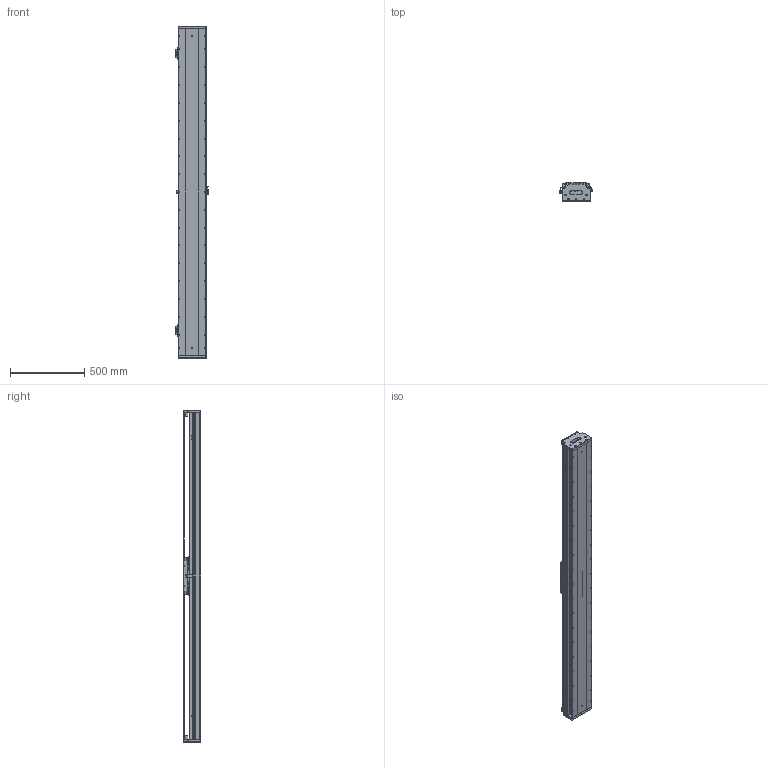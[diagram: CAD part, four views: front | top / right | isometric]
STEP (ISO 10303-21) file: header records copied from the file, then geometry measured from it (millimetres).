
FILE_DESCRIPTION (( 'STEP AP203' ), '1' );
FILE_NAME ('DKW188-C2-W090(T1860-L005-0.2).STEP', '2021-09-14T01:08:34', ( '微软用户' ), ( '微软中国' ), 'SwSTEP 2.0', 'SolidWorks 2018', '' );
FILE_SCHEMA (( 'CONFIG_CONTROL_DESIGN' ));
Length unit declared in the file: millimetre
Products named in the file (25): CKM02-W090-C1C2-TP-3.0 珨极萇儂; 10980-0001-003-00 嫖萇羲壽嘐隅釱; 11899-0001-004-00 詩湍嶺輸; DKW188-C2-W090(T1860-L005-0.2); 嫖萇羲壽蚾饜极; 11899-0001-005-00 詩湍揤輸; 11899-0001-001-00 菁釱; 嫖萇羲壽蚾饜极A; 11899-0001-006-00 嶺輸菜輸; SSR25-DG; DKW-SG-GYP-H-00 嫖萇覜茼え; 砎蝶猾沭; SSR25XW1UUC1; DKW168-RU-DTJ-00 RU2黍杅芛盓殤; 11899-0001-002-00 詩湍裔啣; CKMA01-W090-TRLxxx; RUS嫖掑喜; DKW188 单轴模组-拉钢带组件; 11500-0001-010-00 賑怢啣; Ru2; DKW168-HYB-00 賑輸揤啣; 11899-0001-003-00 傷啣; RUS嫖掑郪璃; pm-y65; DKW168-HXJ-00 遣喳砎蝶
Assembly tree (40 placements, depth 3):
  DKW188-C2-W090(T1860-L005-0.2)
    11899-0001-001-00 菁釱
    SSR25-DG  x2
    SSR25XW1UUC1  x4
    CKMA01-W090-TRLxxx
    11500-0001-010-00 賑怢啣
    DKW188 单轴模组-拉钢带组件
      11899-0001-003-00 傷啣  x2
      DKW168-HXJ-00 遣喳砎蝶  x4
      11899-0001-004-00 詩湍嶺輸  x2
      11899-0001-005-00 詩湍揤輸  x2
      11899-0001-006-00 嶺輸菜輸  x2
      砎蝶猾沭  x2
      11899-0001-002-00 詩湍裔啣
    DKW168-HYB-00 賑輸揤啣  x2
    嫖萇羲壽蚾饜极
      pm-y65  x2
      10980-0001-003-00 嫖萇羲壽嘐隅釱
    嫖萇羲壽蚾饜极A
      pm-y65
      10980-0001-003-00 嫖萇羲壽嘐隅釱
    DKW-SG-GYP-H-00 嫖萇覜茼え
    DKW168-RU-DTJ-00 RU2黍杅芛盓殤
    RUS嫖掑郪璃
      RUS嫖掑喜
      Ru2
    CKM02-W090-C1C2-TP-3.0 珨极萇儂
Bounding box: 222.1 x 120 x 2236 mm (x, y, z)
Volume: 17489410.5 mm3; surface area: 4581061.8 mm2
Topology: 39 solids, 88 shells, 4498 faces, 11675 edges, 7412 vertices
Faces by surface type: plane 2133, cylinder 1612, cone 478, bspline 275
Entity records: 118136 total; most frequent: CARTESIAN_POINT 40045, ORIENTED_EDGE 15503, DIRECTION 15098, EDGE_CURVE 7792, AXIS2_PLACEMENT_3D 5193, VERTEX_POINT 5093, LINE 4712, VECTOR 4712
